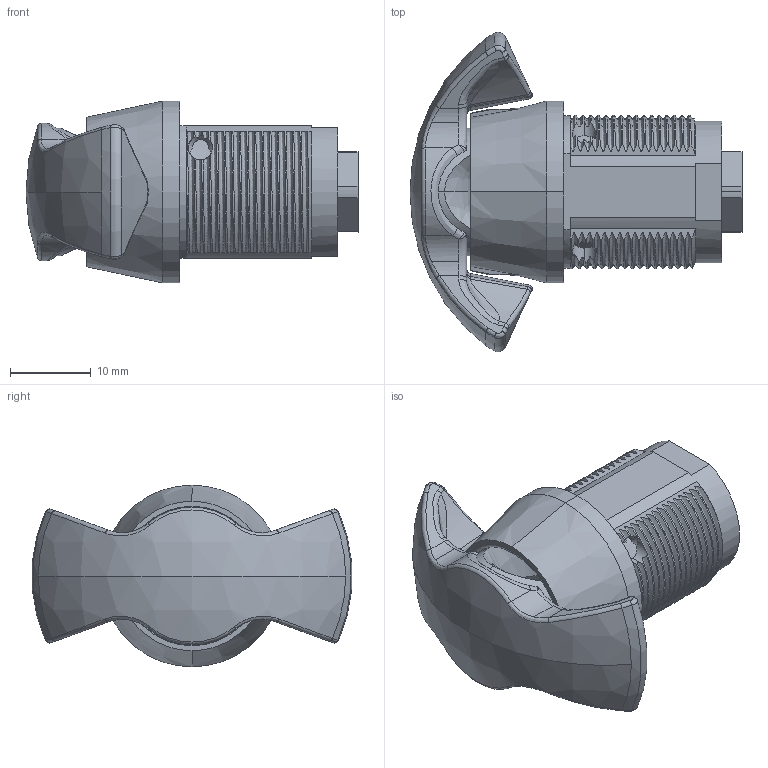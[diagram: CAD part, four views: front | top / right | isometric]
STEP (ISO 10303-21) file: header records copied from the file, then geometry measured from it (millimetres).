
FILE_DESCRIPTION (( 'STEP AP214' ), '1' );
FILE_NAME ('5703 Customer.STEP', '2021-03-11T13:28:25', ( '' ), ( '' ), 'SwSTEP 2.0', 'SolidWorks 2020', '' );
FILE_SCHEMA (( 'AUTOMOTIVE_DESIGN' ));
Length unit declared in the file: millimetre
Products named in the file (3): 5703 Customer; 751981F Housing; 800053F
Assembly tree (2 placements, depth 2):
  5703 Customer
    751981F Housing
    800053F
Bounding box: 41.09 x 39.53 x 22.5 mm (x, y, z)
Volume: 11022.8 mm3; surface area: 6119.9 mm2
Topology: 2 solids, 2 shells, 298 faces, 794 edges, 498 vertices
Faces by surface type: bspline 117, cylinder 90, plane 60, cone 16, torus 13, sphere 2
Entity records: 92293 total; most frequent: CARTESIAN_POINT 86149, ORIENTED_EDGE 1580, DIRECTION 873, EDGE_CURVE 790, VERTEX_POINT 498, AXIS2_PLACEMENT_3D 336, B_SPLINE_CURVE_WITH_KNOTS 326, EDGE_LOOP 302
